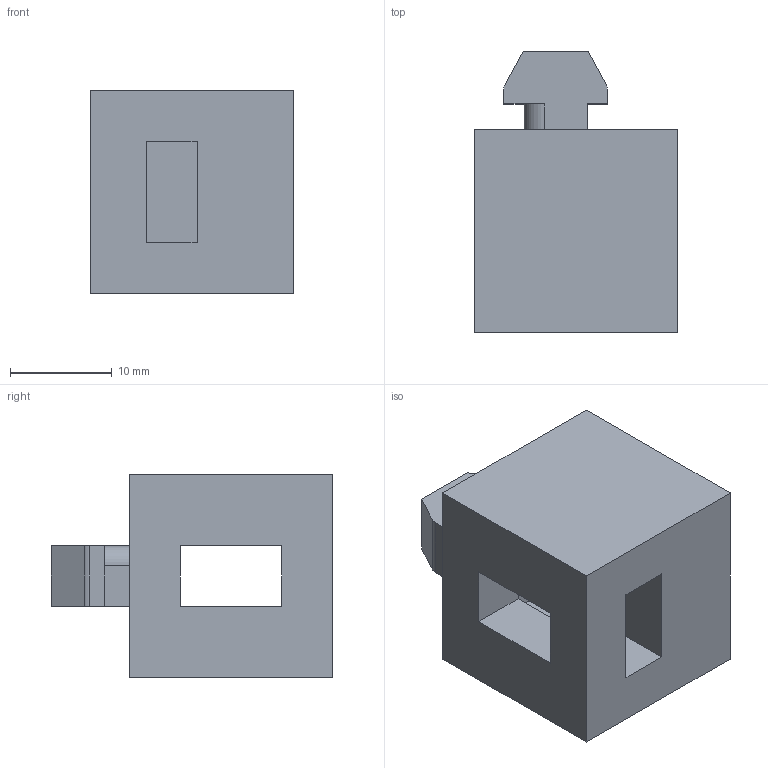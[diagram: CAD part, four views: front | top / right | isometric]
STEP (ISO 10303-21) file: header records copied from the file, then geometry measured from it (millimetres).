
FILE_DESCRIPTION (( 'STEP AP203' ), '1' );
FILE_NAME ('DMB306T.STEP', '2018-08-31T05:53:28', ( '' ), ( '' ), 'SwSTEP 2.0', 'SolidWorks 2012', '' );
FILE_SCHEMA (( 'CONFIG_CONTROL_DESIGN' ));
Length unit declared in the file: millimetre
Products named in the file (1): DMB306T
Bounding box: 20 x 27.7 x 20 mm (x, y, z)
Volume: 6667 mm3; surface area: 3366.2 mm2
Topology: 1 solids, 1 shells, 34 faces, 90 edges, 60 vertices
Faces by surface type: plane 30, cylinder 4
Entity records: 1127 total; most frequent: CARTESIAN_POINT 185, ORIENTED_EDGE 180, DIRECTION 168, EDGE_CURVE 90, LINE 82, VECTOR 82, VERTEX_POINT 60, AXIS2_PLACEMENT_3D 43
